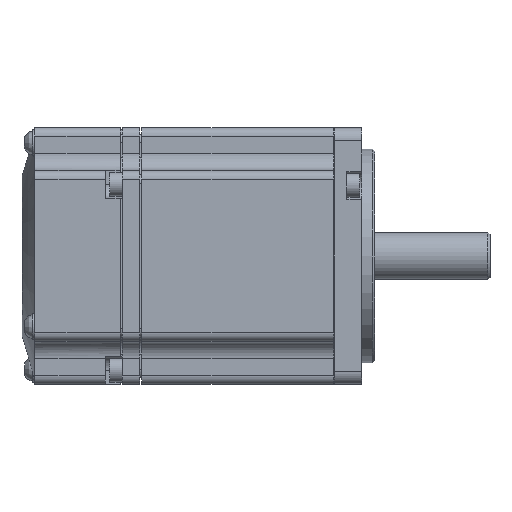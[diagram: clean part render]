
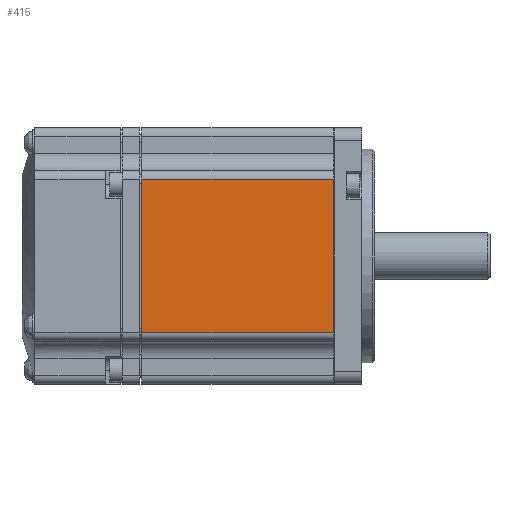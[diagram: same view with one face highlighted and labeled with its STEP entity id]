
A CAD part, front view. The second image highlights one B-rep face of the part: STEP entity #415.
In plain terms, the highlighted planar face has unit normal (0, -1, 0).
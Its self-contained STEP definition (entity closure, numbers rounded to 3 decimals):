
#415 = ADVANCED_FACE( '', ( #1198 ), #1199, .F. );
#1198 = FACE_OUTER_BOUND( '', #2778, .T. );
#1199 = PLANE( '', #2779 );
#2778 = EDGE_LOOP( '', ( #5026, #5027, #5028, #5029 ) );
#2779 = AXIS2_PLACEMENT_3D( '', #5030, #5031, #5032 );
#5026 = ORIENTED_EDGE( '', *, *, #10263, .F. );
#5027 = ORIENTED_EDGE( '', *, *, #10270, .T. );
#5028 = ORIENTED_EDGE( '', *, *, #10257, .T. );
#5029 = ORIENTED_EDGE( '', *, *, #10271, .F. );
#5030 = CARTESIAN_POINT( '', ( 6.5, -30., 27. ) );
#5031 = DIRECTION( '', ( 0., 1., 0. ) );
#5032 = DIRECTION( '', ( 0., 0., 1. ) );
#10257 = EDGE_CURVE( '', #12161, #12163, #12165, .T. );
#10263 = EDGE_CURVE( '', #12172, #12175, #12176, .T. );
#10270 = EDGE_CURVE( '', #12172, #12161, #12186, .T. );
#10271 = EDGE_CURVE( '', #12175, #12163, #12187, .T. );
#12161 = VERTEX_POINT( '', #15290 );
#12163 = VERTEX_POINT( '', #15292 );
#12165 = LINE( '', #15294, #15295 );
#12172 = VERTEX_POINT( '', #15306 );
#12175 = VERTEX_POINT( '', #15309 );
#12176 = LINE( '', #15310, #15311 );
#12186 = LINE( '', #15324, #15325 );
#12187 = LINE( '', #15326, #15327 );
#15290 = CARTESIAN_POINT( '', ( -45., -30., -18. ) );
#15292 = CARTESIAN_POINT( '', ( -0.1, -30., -18. ) );
#15294 = CARTESIAN_POINT( '', ( -49.5, -30., -18. ) );
#15295 = VECTOR( '', #19384, 1000. );
#15306 = CARTESIAN_POINT( '', ( -45., -30., 18. ) );
#15309 = CARTESIAN_POINT( '', ( -0.1, -30., 18. ) );
#15310 = CARTESIAN_POINT( '', ( -49.5, -30., 18. ) );
#15311 = VECTOR( '', #19392, 1000. );
#15324 = CARTESIAN_POINT( '', ( -45., -30., 27. ) );
#15325 = VECTOR( '', #19405, 1000. );
#15326 = CARTESIAN_POINT( '', ( -0.1, -30., 27. ) );
#15327 = VECTOR( '', #19406, 1000. );
#19384 = DIRECTION( '', ( 1., 0., 0. ) );
#19392 = DIRECTION( '', ( 1., 0., 0. ) );
#19405 = DIRECTION( '', ( 0., 0., -1. ) );
#19406 = DIRECTION( '', ( 0., 0., -1. ) );
